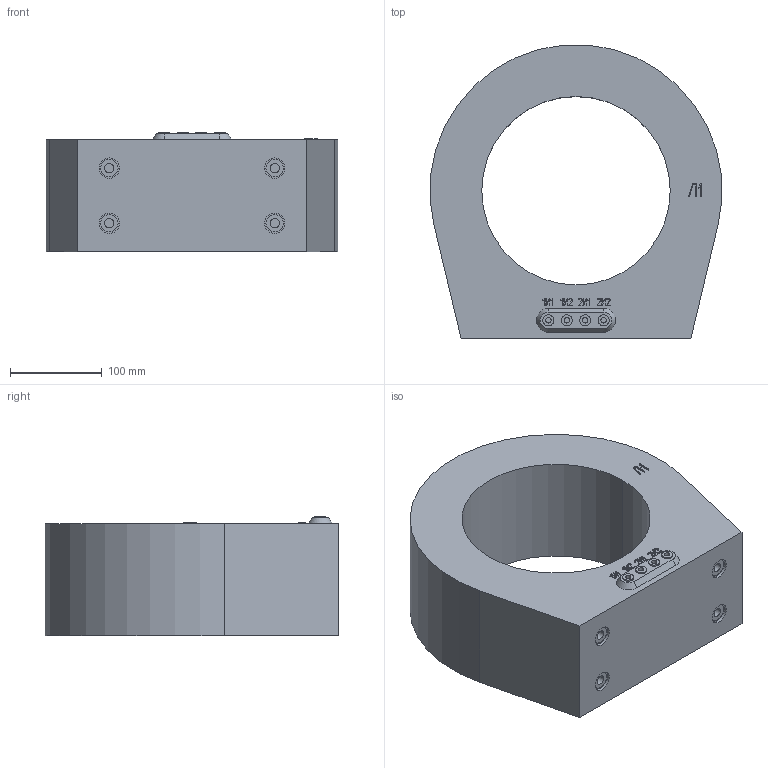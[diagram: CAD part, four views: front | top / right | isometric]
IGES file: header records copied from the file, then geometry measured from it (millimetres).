
Start section: IGES file generated from Kompas f.0 for Windows drawing by the IGES translator from Ascon Ltd., translator version IGESOUT-5.1.
Global section: file name: C:\Ðàáîòà\Èçâåùåíèÿ 5\ÒØË-ÍÒÇ-0,66-11....14 (ÍÒÇ.08-071-2026)\3D\ÒØË-ÍÒÇ-0.66-14À.igs; native system: Kompas( 32 bit ) for Windows; preprocessor: 1.0; author: Ïîëüçîâàòåëü Windows; organization: Q; date: -17740623:053407; units: millimetre
Bounding box: 317.38 x 319.41 x 130 mm (x, y, z)
Volume: 6472809.6 mm3; surface area: 320891.9 mm2
Topology: 1 solids, 1 shells, 600 faces, 1689 edges, 1126 vertices
Faces by surface type: revolution 403, bspline 197
